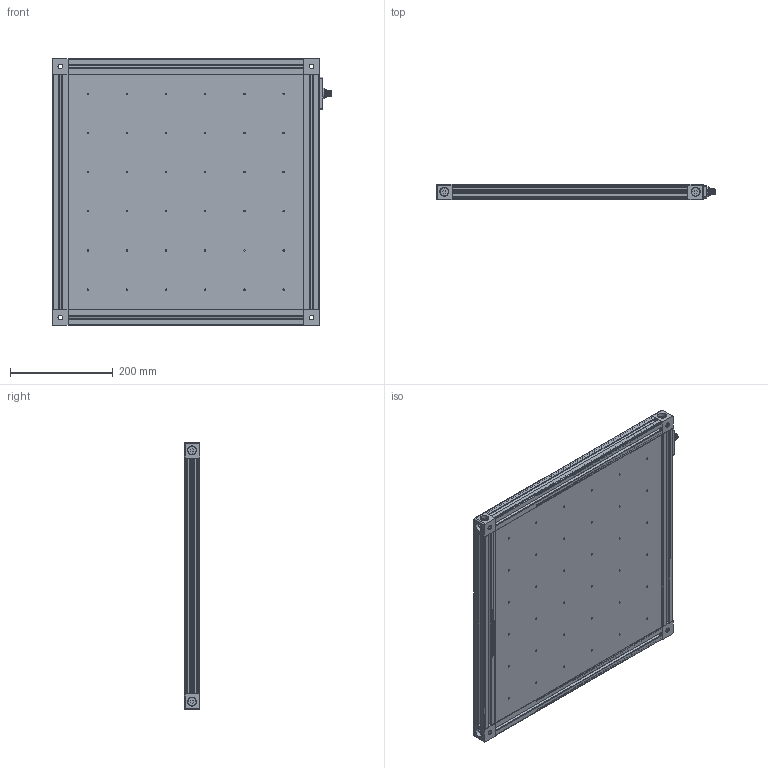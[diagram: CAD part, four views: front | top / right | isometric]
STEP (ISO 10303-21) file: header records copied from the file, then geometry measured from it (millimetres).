
FILE_DESCRIPTION (( 'STEP AP214' ), '1' );
FILE_NAME ('SOBL-450X450.step', '2020-06-18T17:16:51', ( '' ), ( '' ), 'SwSTEP 2.0', 'SolidWorks 2020', '' );
FILE_SCHEMA (( 'AUTOMOTIVE_DESIGN' ));
Length unit declared in the file: millimetre
Products named in the file (12): SOBL Corner Cube_R3; Screw holder; Screws_FB08.0-015; SOBL-450X450; SOBL-BP-(50-600)_459 x 459; SOBL-BC_450 x 450; Input Assembly; Input Mounting Plate_A; M12_Male; Screws -- short_FB08.0-015; M12 Nut; BAR-30_459
Assembly tree (26 placements, depth 3):
  SOBL-450X450
    BAR-30_459  x4
    Screws_FB08.0-015  x8
    SOBL-BC_450 x 450
    Input Assembly
      M12_Male
      Input Mounting Plate_A
      Screws -- short_FB08.0-015  x2
      Screw holder  x2
      M12 Nut
    SOBL-BP-(50-600)_459 x 459
    SOBL Corner Cube_R3  x4
Bounding box: 542.47 x 30 x 519 mm (x, y, z)
Volume: 2015298.7 mm3; surface area: 1549941.1 mm2
Topology: 25 solids, 26 shells, 1399 faces, 3826 edges, 2501 vertices
Faces by surface type: cylinder 640, plane 574, cone 107, bspline 78
Entity records: 44928 total; most frequent: CARTESIAN_POINT 24842, ORIENTED_EDGE 3744, DIRECTION 3496, EDGE_CURVE 1872, AXIS2_PLACEMENT_3D 1278, VERTEX_POINT 1234, LINE 940, VECTOR 940
